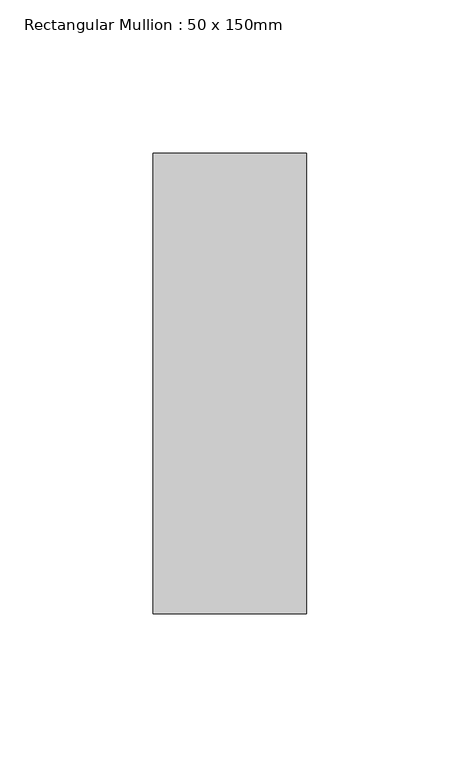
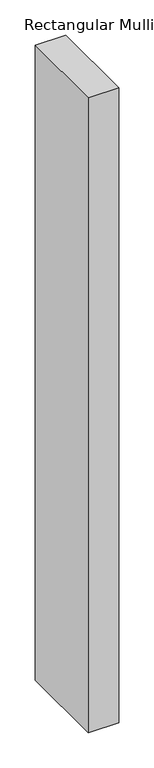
"""IFC4 building model written with IfcOpenShell, lengths in millimetres: member geometry, Rectangular Mullion : 50 x 150mm."""

from ifc_helpers import new_model, si_unit, frame, origin, place, context, project, spatial, polyline, outline, extrude, source, transform, mapped, element, save


def rectangular_mullion_50_x_150mm_a1635f5b(model_context):
    return source(origin(), model_context, "Body", "SweptSolid", [
        extrude(outline(polyline([(0.0, 75.0), (0.0, -75.0), (-50.0, -75.0), (-50.0, 75.0), (0.0, 75.0)])), frame((0.0, 0.0, -1099.0), z_axis=(0.0, 0.0, 1.0), x_axis=(1.0, 0.0, 0.0)), (0.0, 0.0, 1.0), 1099.0),
    ])


if __name__ == "__main__":
    model = new_model("IFC4")
    model_context = context("Model", 3, world=origin())
    ifc_project = project(units=[si_unit("LENGTHUNIT", "METRE", prefix="MILLI")], contexts=[model_context])
    site = spatial("IfcSite", under=ifc_project)
    building = spatial("IfcBuilding", under=site)
    placement = place(None, origin())
    rectangular_mullion_50_x_150mm_shape = rectangular_mullion_50_x_150mm_a1635f5b(model_context)
    element("IfcMember", 1, ObjectType="Rectangular Mullion : 50 x 150mm", at=placement, inside=building, context=model_context, shape_type="MappedRepresentation", body=[
        mapped(rectangular_mullion_50_x_150mm_shape, transform((0.0, 0.0, 0.0), x_axis=(1.0, 0.0, 0.0), y_axis=(0.0, 1.0, 0.0), z_axis=(0.0, 0.0, 1.0))),
    ])
    save(model, "model.ifc")
